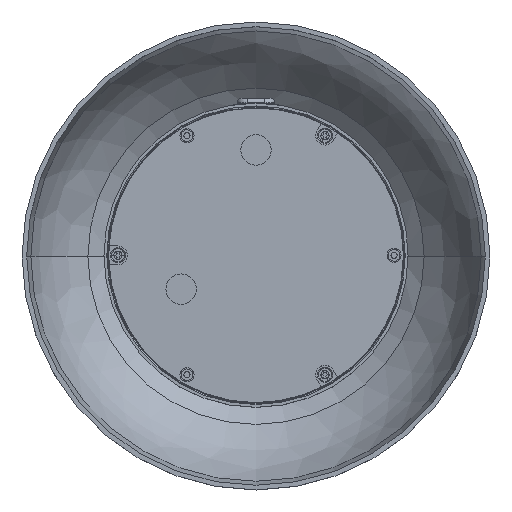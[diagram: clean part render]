
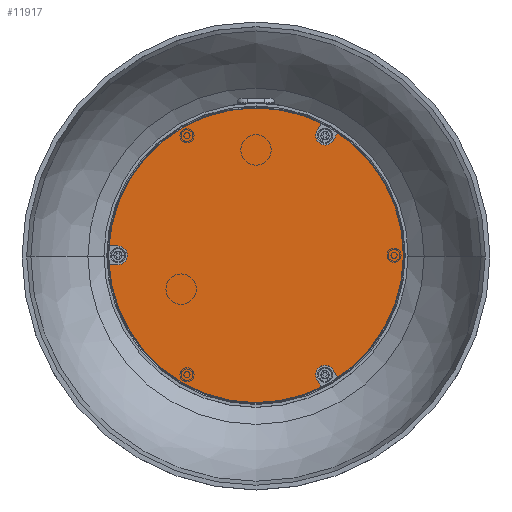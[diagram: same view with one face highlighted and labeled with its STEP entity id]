
A CAD part, top view. The second image highlights one B-rep face of the part: STEP entity #11917.
In plain terms, the highlighted planar face has unit normal (0, 0, 1) as drawn and (0, -1, 0) by its records, which use the part's own axes.
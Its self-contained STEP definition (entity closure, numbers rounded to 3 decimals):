
#11682=CARTESIAN_POINT('',(29.5,0.,-51.095));
#11683=DIRECTION('',(0.,1.,0.));
#11684=DIRECTION('',(-0.866,0.,-0.5));
#11685=AXIS2_PLACEMENT_3D('',#11682,#11683,#11684);
#11687=DIRECTION('',(-0.5,0.,0.866));
#11688=VECTOR('',#11687,3.873);
#11689=CARTESIAN_POINT('',(27.972,0.,-56.45));
#11690=LINE('',#11689,#11688);
#11691=DIRECTION('',(-1.,0.,0.));
#11692=VECTOR('',#11691,3.873);
#11693=CARTESIAN_POINT('',(-59.,0.,-4.));
#11694=LINE('',#11693,#11692);
#11695=CARTESIAN_POINT('',(-59.,0.,0.));
#11696=DIRECTION('',(0.,1.,0.));
#11697=DIRECTION('',(0.,0.,1.));
#11698=AXIS2_PLACEMENT_3D('',#11695,#11696,#11697);
#11700=DIRECTION('',(1.,0.,0.));
#11701=VECTOR('',#11700,3.873);
#11702=CARTESIAN_POINT('',(-62.873,0.,4.));
#11703=LINE('',#11702,#11701);
#11704=DIRECTION('',(0.5,0.,0.866));
#11705=VECTOR('',#11704,3.873);
#11706=CARTESIAN_POINT('',(26.036,0.,53.095));
#11707=LINE('',#11706,#11705);
#11708=CARTESIAN_POINT('',(29.5,0.,51.095));
#11709=DIRECTION('',(0.,1.,0.));
#11710=DIRECTION('',(0.866,0.,-0.5));
#11711=AXIS2_PLACEMENT_3D('',#11708,#11709,#11710);
#11713=DIRECTION('',(-0.5,0.,-0.866));
#11714=VECTOR('',#11713,3.873);
#11715=CARTESIAN_POINT('',(34.901,0.,52.45));
#11716=LINE('',#11715,#11714);
#11717=DIRECTION('',(0.5,0.,-0.866));
#11718=VECTOR('',#11717,3.873);
#11719=CARTESIAN_POINT('',(32.964,0.,-49.095));
#11720=LINE('',#11719,#11718);
#11733=CARTESIAN_POINT('',(0.,0.,0.));
#11734=DIRECTION('',(0.,-1.,0.));
#11735=DIRECTION('',(0.444,0.,0.896));
#11736=AXIS2_PLACEMENT_3D('',#11733,#11734,#11735);
#11751=CARTESIAN_POINT('',(0.,0.,0.));
#11752=DIRECTION('',(0.,-1.,0.));
#11753=DIRECTION('',(0.554,0.,-0.833));
#11754=AXIS2_PLACEMENT_3D('',#11751,#11752,#11753);
#11778=CARTESIAN_POINT('',(0.,0.,0.));
#11779=DIRECTION('',(0.,-1.,0.));
#11780=DIRECTION('',(-0.998,0.,-0.063));
#11781=AXIS2_PLACEMENT_3D('',#11778,#11779,#11780);
#11838=CARTESIAN_POINT('',(-59.,0.,4.));
#11839=CARTESIAN_POINT('',(-59.,0.,-4.));
#11840=VERTEX_POINT('',#11838);
#11841=VERTEX_POINT('',#11839);
#11842=CARTESIAN_POINT('',(-62.873,0.,-4.));
#11843=VERTEX_POINT('',#11842);
#11844=CARTESIAN_POINT('',(-62.873,0.,4.));
#11845=VERTEX_POINT('',#11844);
#11854=CARTESIAN_POINT('',(32.964,0.,49.095));
#11855=CARTESIAN_POINT('',(26.036,0.,53.095));
#11856=VERTEX_POINT('',#11854);
#11857=VERTEX_POINT('',#11855);
#11858=CARTESIAN_POINT('',(27.972,0.,56.45));
#11859=VERTEX_POINT('',#11858);
#11860=CARTESIAN_POINT('',(34.901,0.,52.45));
#11861=VERTEX_POINT('',#11860);
#11870=CARTESIAN_POINT('',(26.036,0.,-53.095));
#11871=CARTESIAN_POINT('',(32.964,0.,-49.095));
#11872=VERTEX_POINT('',#11870);
#11873=VERTEX_POINT('',#11871);
#11874=CARTESIAN_POINT('',(34.901,0.,-52.45));
#11875=VERTEX_POINT('',#11874);
#11876=CARTESIAN_POINT('',(27.972,0.,-56.45));
#11877=VERTEX_POINT('',#11876);
#11886=CARTESIAN_POINT('',(0.,0.,0.));
#11887=DIRECTION('',(0.,1.,0.));
#11888=DIRECTION('',(1.,0.,0.));
#11889=AXIS2_PLACEMENT_3D('',#11886,#11887,#11888);
#11890=PLANE('',#11889);
#11892=ORIENTED_EDGE('',*,*,#11891,.F.);
#11894=ORIENTED_EDGE('',*,*,#11893,.F.);
#11896=ORIENTED_EDGE('',*,*,#11895,.F.);
#11898=ORIENTED_EDGE('',*,*,#11897,.F.);
#11900=ORIENTED_EDGE('',*,*,#11899,.F.);
#11902=ORIENTED_EDGE('',*,*,#11901,.F.);
#11904=ORIENTED_EDGE('',*,*,#11903,.F.);
#11906=ORIENTED_EDGE('',*,*,#11905,.F.);
#11908=ORIENTED_EDGE('',*,*,#11907,.F.);
#11910=ORIENTED_EDGE('',*,*,#11909,.F.);
#11912=ORIENTED_EDGE('',*,*,#11911,.F.);
#11914=ORIENTED_EDGE('',*,*,#11913,.F.);
#11915=EDGE_LOOP('',(#11892,#11894,#11896,#11898,#11900,#11902,#11904,#11906,
#11908,#11910,#11912,#11914));
#11916=FACE_OUTER_BOUND('',#11915,.F.);
#11917=ADVANCED_FACE('',(#11916),#11890,.F.);
#11686=CIRCLE('',#11685,4.);
#11699=CIRCLE('',#11698,4.);
#11712=CIRCLE('',#11711,4.);
#11737=CIRCLE('',#11736,63.);
#11755=CIRCLE('',#11754,63.);
#11782=CIRCLE('',#11781,63.);
#11891=EDGE_CURVE('',#11872,#11873,#11686,.T.);
#11893=EDGE_CURVE('',#11877,#11872,#11690,.T.);
#11895=EDGE_CURVE('',#11843,#11877,#11782,.T.);
#11897=EDGE_CURVE('',#11841,#11843,#11694,.T.);
#11899=EDGE_CURVE('',#11840,#11841,#11699,.T.);
#11901=EDGE_CURVE('',#11845,#11840,#11703,.T.);
#11903=EDGE_CURVE('',#11859,#11845,#11737,.T.);
#11905=EDGE_CURVE('',#11857,#11859,#11707,.T.);
#11907=EDGE_CURVE('',#11856,#11857,#11712,.T.);
#11909=EDGE_CURVE('',#11861,#11856,#11716,.T.);
#11911=EDGE_CURVE('',#11875,#11861,#11755,.T.);
#11913=EDGE_CURVE('',#11873,#11875,#11720,.T.);
